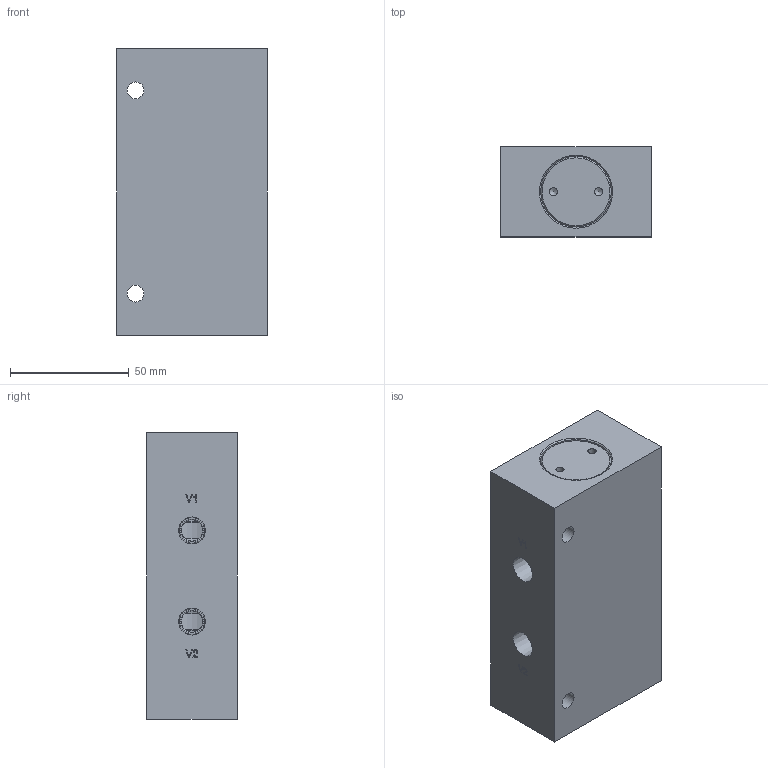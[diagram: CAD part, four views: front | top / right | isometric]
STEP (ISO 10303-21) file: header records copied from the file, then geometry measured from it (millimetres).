
FILE_DESCRIPTION(/* description */ (''),/* implementation_level */ '2;1');
FILE_NAME(/* name */ 'L:\ALADCO\Advertising\3D Content\Valves\Step Files - 2014-11-19 thru Present\62250X.stp',/* time_stamp */ '2014-11-20T09:19:26-06:00',/* author */ ('dmatz'),/* organization */ ('Aladdin Eng. & Manf. Inc.'),/* preprocessor_version */ 'ST-DEVELOPER v15.2',/* originating_system */ 'Autodesk Inventor 2014',/* authorisation */ '0 in^3');
FILE_SCHEMA (('AUTOMOTIVE_DESIGN { 1 0 10303 214 3 1 1 }'));
Length unit declared in the file: inch
Products named in the file (3): 620026; 620025; 622501
Bounding box: 63.5 x 38.1 x 120.65 mm (x, y, z)
Volume: 233289 mm3; surface area: 51822.7 mm2
Topology: 3 solids, 3 shells, 243 faces, 609 edges, 392 vertices
Faces by surface type: plane 96, bspline 66, cylinder 47, cone 28, torus 6
Full cylindrical faces by diameter (mm): 3.454 x4, 7.144 x2, 8.992 x4, 10.719 x4, 13.081 x2, 16.129 x2, 21.107 x2, 25.4 x1, 26.035 x2, 28.524 x4, 28.575 x4, 29.591 x2, 29.766 x2, 31.75 x2
Entity records: 6474 total; most frequent: CARTESIAN_POINT 2299, ORIENTED_EDGE 828, DIRECTION 644, EDGE_CURVE 414, VERTEX_POINT 296, EDGE_LOOP 278, AXIS2_PLACEMENT_3D 227, ADVANCED_FACE 193
